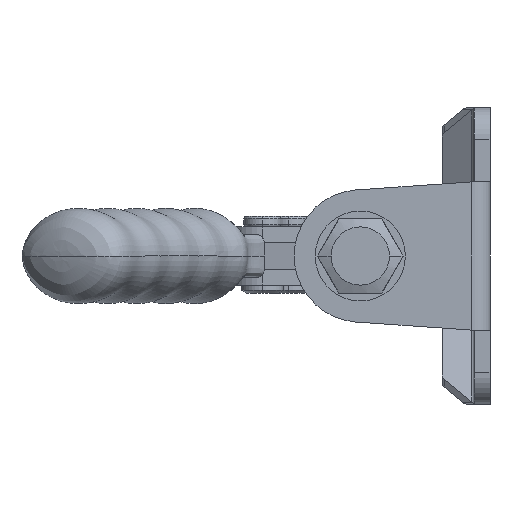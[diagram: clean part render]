
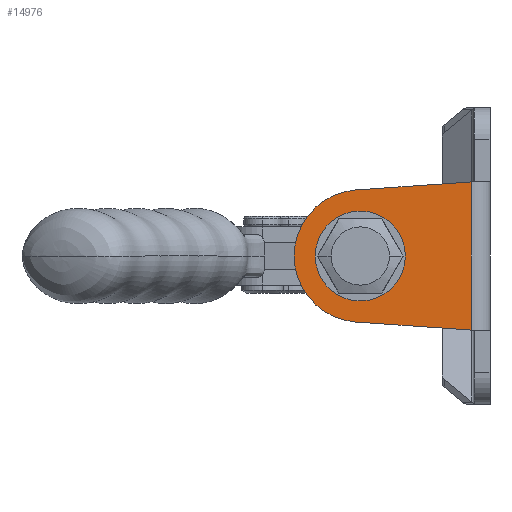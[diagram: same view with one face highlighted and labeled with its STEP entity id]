
A CAD part, left-side view. The second image highlights one B-rep face of the part: STEP entity #14976.
In plain terms, the highlighted planar face has unit normal (-1, 0, 0).
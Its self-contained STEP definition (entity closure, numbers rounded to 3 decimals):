
#1123 = VECTOR ( 'NONE', #13176, 1000. ) ;
#1322 = DIRECTION ( 'NONE',  ( 0., 0., 1. ) ) ;
#1383 = FACE_OUTER_BOUND ( 'NONE', #5399, .T. ) ;
#1667 = ORIENTED_EDGE ( 'NONE', *, *, #21068, .T. ) ;
#1962 = ORIENTED_EDGE ( 'NONE', *, *, #13431, .F. ) ;
#2414 = EDGE_CURVE ( 'NONE', #18544, #34048, #8815, .T. ) ;
#2733 = VERTEX_POINT ( 'NONE', #10344 ) ;
#5153 = CIRCLE ( 'NONE', #8349, 12.5 ) ;
#5399 = EDGE_LOOP ( 'NONE', ( #12951, #1667, #17669, #31227 ) ) ;
#5567 = CARTESIAN_POINT ( 'NONE',  ( -76., 1., 0. ) ) ;
#6571 = EDGE_LOOP ( 'NONE', ( #1962, #25409 ) ) ;
#8349 = AXIS2_PLACEMENT_3D ( 'NONE', #5567, #25538, #8451 ) ;
#8451 = DIRECTION ( 'NONE',  ( 0., 0., 1. ) ) ;
#8815 = LINE ( 'NONE', #13465, #1123 ) ;
#9073 = CARTESIAN_POINT ( 'NONE',  ( -76., -20., 28. ) ) ;
#10344 = CARTESIAN_POINT ( 'NONE',  ( -76., 1., -7.5 ) ) ;
#11857 = VERTEX_POINT ( 'NONE', #31337 ) ;
#12409 = DIRECTION ( 'NONE',  ( 0., 0.998, -0.07 ) ) ;
#12572 = EDGE_CURVE ( 'NONE', #2733, #20730, #30513, .T. ) ;
#12951 = ORIENTED_EDGE ( 'NONE', *, *, #2414, .T. ) ;
#13176 = DIRECTION ( 'NONE',  ( 0., -0.998, -0.07 ) ) ;
#13431 = EDGE_CURVE ( 'NONE', #20730, #2733, #36680, .T. ) ;
#13465 = CARTESIAN_POINT ( 'NONE',  ( -76., 0.877, -12.539 ) ) ;
#14449 = CARTESIAN_POINT ( 'NONE',  ( -76., 1., 0. ) ) ;
#14945 = CARTESIAN_POINT ( 'NONE',  ( -76., -20., 14. ) ) ;
#14976 = ADVANCED_FACE ( 'NONE', ( #30025, #1383 ), #23163, .F. ) ;
#15592 = AXIS2_PLACEMENT_3D ( 'NONE', #28860, #34546, #17549 ) ;
#17330 = DIRECTION ( 'NONE',  ( 0., 0., 1. ) ) ;
#17549 = DIRECTION ( 'NONE',  ( 0., 0., -1. ) ) ;
#17669 = ORIENTED_EDGE ( 'NONE', *, *, #28685, .T. ) ;
#18529 = DIRECTION ( 'NONE',  ( -1., 0., 0. ) ) ;
#18544 = VERTEX_POINT ( 'NONE', #24140 ) ;
#20730 = VERTEX_POINT ( 'NONE', #22803 ) ;
#21068 = EDGE_CURVE ( 'NONE', #34048, #30266, #34664, .T. ) ;
#22803 = CARTESIAN_POINT ( 'NONE',  ( -76., 1., 7.5 ) ) ;
#23163 = PLANE ( 'NONE',  #15592 ) ;
#24140 = CARTESIAN_POINT ( 'NONE',  ( -76., 1.873, -12.47 ) ) ;
#24660 = CARTESIAN_POINT ( 'NONE',  ( -76., -20., -14. ) ) ;
#25409 = ORIENTED_EDGE ( 'NONE', *, *, #12572, .F. ) ;
#25538 = DIRECTION ( 'NONE',  ( -1., 0., 0. ) ) ;
#25744 = VECTOR ( 'NONE', #12409, 1000. ) ;
#26279 = VECTOR ( 'NONE', #28997, 1000. ) ;
#26739 = CARTESIAN_POINT ( 'NONE',  ( -76., 0.877, 12.539 ) ) ;
#27996 = AXIS2_PLACEMENT_3D ( 'NONE', #35521, #18529, #1322 ) ;
#28685 = EDGE_CURVE ( 'NONE', #30266, #11857, #32377, .T. ) ;
#28860 = CARTESIAN_POINT ( 'NONE',  ( -76., -23.5, 28. ) ) ;
#28997 = DIRECTION ( 'NONE',  ( 0., 0., 1. ) ) ;
#30025 = FACE_BOUND ( 'NONE', #6571, .T. ) ;
#30266 = VERTEX_POINT ( 'NONE', #14945 ) ;
#30513 = CIRCLE ( 'NONE', #27996, 7.5 ) ;
#31140 = EDGE_CURVE ( 'NONE', #11857, #18544, #5153, .T. ) ;
#31227 = ORIENTED_EDGE ( 'NONE', *, *, #31140, .T. ) ;
#31337 = CARTESIAN_POINT ( 'NONE',  ( -76., 1.873, 12.47 ) ) ;
#32377 = LINE ( 'NONE', #26739, #25744 ) ;
#34048 = VERTEX_POINT ( 'NONE', #24660 ) ;
#34335 = DIRECTION ( 'NONE',  ( -1., 0., 0. ) ) ;
#34546 = DIRECTION ( 'NONE',  ( 1., 0., 0. ) ) ;
#34664 = LINE ( 'NONE', #9073, #26279 ) ;
#35521 = CARTESIAN_POINT ( 'NONE',  ( -76., 1., 0. ) ) ;
#36680 = CIRCLE ( 'NONE', #36753, 7.5 ) ;
#36753 = AXIS2_PLACEMENT_3D ( 'NONE', #14449, #34335, #17330 ) ;
